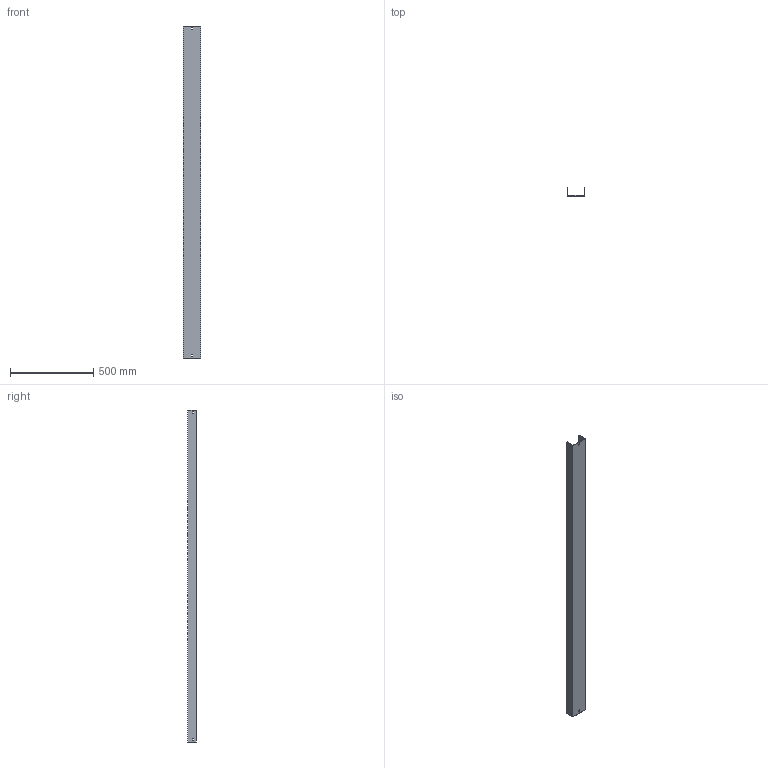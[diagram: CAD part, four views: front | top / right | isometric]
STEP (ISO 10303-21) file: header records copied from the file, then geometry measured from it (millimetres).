
FILE_DESCRIPTION (( 'STEP AP214' ), '1' );
FILE_NAME ('03F2B100.step', '2025-02-21T13:23:31', ( '' ), ( '' ), 'SwSTEP 2.0', 'SolidWorks 2023', '' );
FILE_SCHEMA (( 'AUTOMOTIVE_DESIGN' ));
Length unit declared in the file: millimetre
Products named in the file (1): 03F2B100
Bounding box: 104 x 52 x 2000 mm (x, y, z)
Volume: 1405610.5 mm3; surface area: 819306 mm2
Topology: 1 solids, 1 shells, 34 faces, 96 edges, 64 vertices
Faces by surface type: plane 34
Entity records: 1127 total; most frequent: CARTESIAN_POINT 195, ORIENTED_EDGE 192, DIRECTION 166, VECTOR 96, LINE 96, EDGE_CURVE 96, VERTEX_POINT 64, EDGE_LOOP 46
